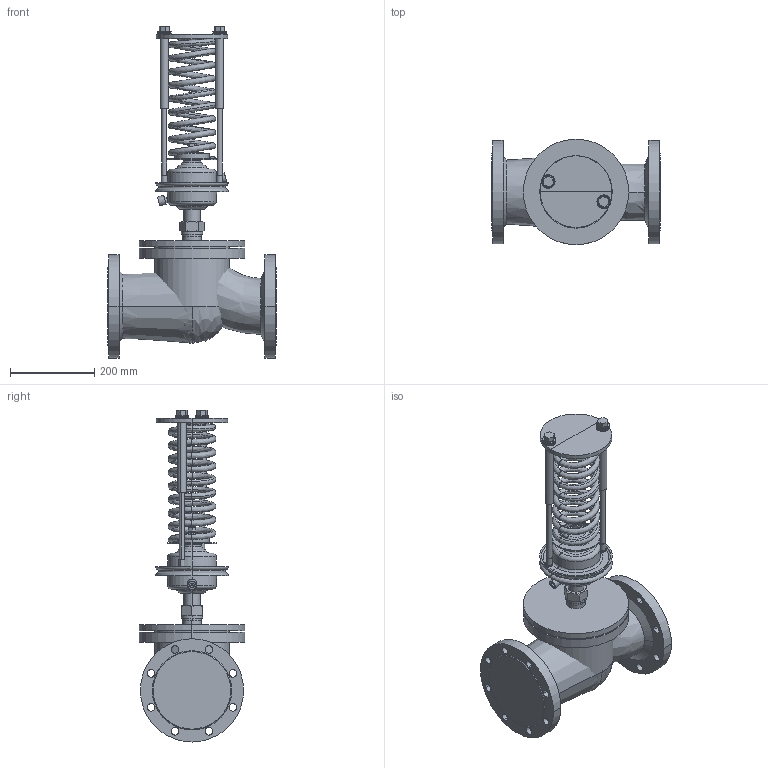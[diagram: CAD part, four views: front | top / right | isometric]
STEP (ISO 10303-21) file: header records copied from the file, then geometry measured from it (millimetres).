
FILE_DESCRIPTION(/* description */ (''),/* implementation_level */ '2;1');
FILE_NAME(/* name */ 'ETM_Регулятор давления_УРРД_НЗ_РД_DN125 0.1—0.6 МПа',/* time_stamp */ '2026-04-24T18:24:07+03:00',/* author */ (''),/* organization */ (''),/* preprocessor_version */ 'ST-DEVELOPER v20',/* originating_system */ '',/* authorisation */ '');
FILE_SCHEMA (('AP242_MANAGED_MODEL_BASED_3D_ENGINEERING_MIM_LF { 1 0 10303 442 1 1 4 }'));
Length unit declared in the file: millimetre
Products named in the file (13): TopLevelAssembly; Выдавливание; Переход; Выдавливание_
1; Переход_1; Переход_2; Переход_3; Объемная геометрия 
присоединена; Выдавливание_
2; Выдавливание_
3; Объемная геометрия 
присоединена_1; Выдавливание_
4; Пружина красная
Assembly tree (12 placements, depth 2):
  TopLevelAssembly
    Выдавливание
    Переход
    Выдавливание_
1
    Переход_1
    Переход_2
    Переход_3
    Объемная геометрия 
присоединена
    Выдавливание_
2
    Выдавливание_
3
    Объемная геометрия 
присоединена_1
    Выдавливание_
4
    Пружина красная
Bounding box: 400 x 250 x 787.65 mm (x, y, z)
Volume: 17554435.4 mm3; surface area: 1456585.5 mm2
Topology: 31 solids, 31 shells, 522 faces, 1053 edges, 573 vertices
Faces by surface type: plane 181, bspline 177, cylinder 154, cone 10
Entity records: 16710 total; most frequent: CARTESIAN_POINT 5365, DIRECTION 2393, ORIENTED_EDGE 2102, EDGE_CURVE 1051, AXIS2_PLACEMENT_3D 1006, CIRCLE 635, VERTEX_POINT 573, EDGE_LOOP 560
